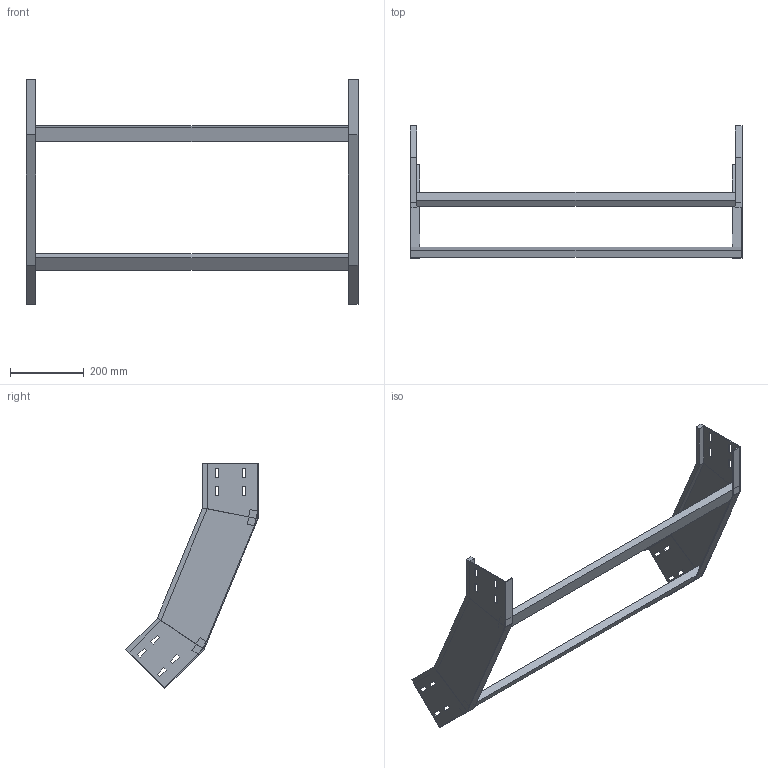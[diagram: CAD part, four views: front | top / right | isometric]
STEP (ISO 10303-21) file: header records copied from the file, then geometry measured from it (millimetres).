
FILE_DESCRIPTION (( 'STEP AP214' ), '1' );
FILE_NAME ('31J5F900.step', '2025-02-21T16:26:38', ( '' ), ( '' ), 'SwSTEP 2.0', 'SolidWorks 2023', '' );
FILE_SCHEMA (( 'AUTOMOTIVE_DESIGN' ));
Length unit declared in the file: millimetre
Products named in the file (3): LONGH.SALITA_45°_H150_R500; TRAVERSINO_900; 31J5F900
Assembly tree (4 placements, depth 2):
  31J5F900
    LONGH.SALITA_45°_H150_R500  x2
    TRAVERSINO_900  x2
Bounding box: 900 x 358.7 x 609.91 mm (x, y, z)
Volume: 2104812 mm3; surface area: 700798.1 mm2
Topology: 4 solids, 4 shells, 128 faces, 328 edges, 208 vertices
Faces by surface type: plane 128
Entity records: 2016 total; most frequent: CARTESIAN_POINT 339, ORIENTED_EDGE 328, DIRECTION 306, VECTOR 164, EDGE_CURVE 164, LINE 164, VERTEX_POINT 104, EDGE_LOOP 80
